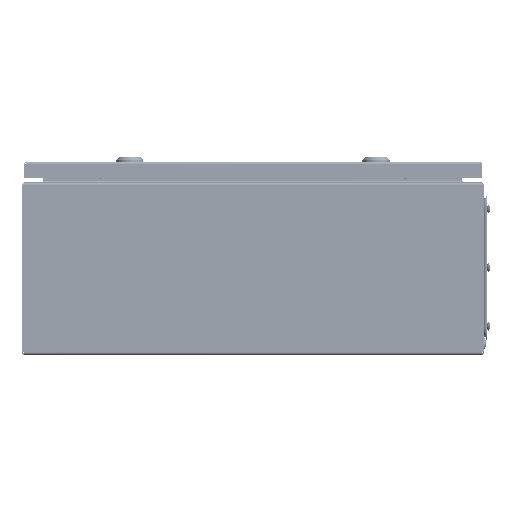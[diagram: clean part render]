
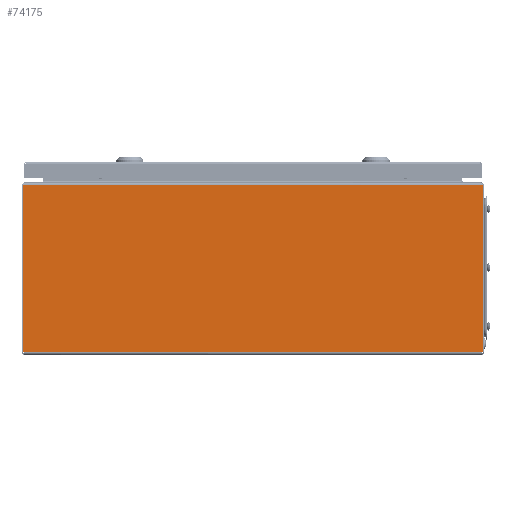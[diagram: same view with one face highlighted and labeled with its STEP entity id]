
A CAD part, left-side view. The second image highlights one B-rep face of the part: STEP entity #74175.
In plain terms, the highlighted planar face has unit normal (-1, 0, 0).
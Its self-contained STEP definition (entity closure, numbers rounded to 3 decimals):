
#7166 = VECTOR ( 'NONE', #54194, 1000. ) ;
#17624 = EDGE_CURVE ( 'NONE', #114324, #20134, #23173, .T. ) ;
#20134 = VERTEX_POINT ( 'NONE', #57565 ) ;
#22228 = CARTESIAN_POINT ( 'NONE',  ( -250., -248.529, 2.9 ) ) ;
#22267 = VERTEX_POINT ( 'NONE', #172551 ) ;
#23173 = LINE ( 'NONE', #125216, #113783 ) ;
#24949 = EDGE_CURVE ( 'NONE', #167525, #79824, #226206, .T. ) ;
#27391 = DIRECTION ( 'NONE',  ( 0., 1., 0. ) ) ;
#36995 = DIRECTION ( 'NONE',  ( 0., -1., 0. ) ) ;
#46352 = EDGE_CURVE ( 'NONE', #175825, #20134, #214727, .T. ) ;
#46869 = LINE ( 'NONE', #153279, #226556 ) ;
#47467 = DIRECTION ( 'NONE',  ( 1., 0., 0. ) ) ;
#48750 = VECTOR ( 'NONE', #154071, 1000. ) ;
#48876 = VECTOR ( 'NONE', #89266, 1000. ) ;
#54194 = DIRECTION ( 'NONE',  ( 0., 0., 1. ) ) ;
#57565 = CARTESIAN_POINT ( 'NONE',  ( -250., 248.423, 183.85 ) ) ;
#61372 = DIRECTION ( 'NONE',  ( 0., 1., 0. ) ) ;
#62414 = CARTESIAN_POINT ( 'NONE',  ( -250., -248.423, 2.9 ) ) ;
#68216 = LINE ( 'NONE', #156361, #48750 ) ;
#71979 = CARTESIAN_POINT ( 'NONE',  ( -250., -2750., 2.9 ) ) ;
#72055 = LINE ( 'NONE', #140839, #48876 ) ;
#74175 = ADVANCED_FACE ( 'NONE', ( #152777 ), #101251, .F. ) ;
#78358 = ORIENTED_EDGE ( 'NONE', *, *, #46352, .T. ) ;
#79824 = VERTEX_POINT ( 'NONE', #22228 ) ;
#83951 = CARTESIAN_POINT ( 'NONE',  ( -250., 248.529, 2.9 ) ) ;
#84875 = ORIENTED_EDGE ( 'NONE', *, *, #143660, .F. ) ;
#87023 = ORIENTED_EDGE ( 'NONE', *, *, #24949, .T. ) ;
#89266 = DIRECTION ( 'NONE',  ( 0., 1., 0. ) ) ;
#101251 = PLANE ( 'NONE',  #164540 ) ;
#102700 = DIRECTION ( 'NONE',  ( 0., -1., 0. ) ) ;
#108176 = CARTESIAN_POINT ( 'NONE',  ( -250., -248.529, 183.85 ) ) ;
#111848 = VERTEX_POINT ( 'NONE', #108176 ) ;
#113783 = VECTOR ( 'NONE', #36995, 1000. ) ;
#114324 = VERTEX_POINT ( 'NONE', #167487 ) ;
#115576 = CARTESIAN_POINT ( 'NONE',  ( -250., -248.423, 183.85 ) ) ;
#116317 = VERTEX_POINT ( 'NONE', #83951 ) ;
#117342 = CARTESIAN_POINT ( 'NONE',  ( -250., -2750., 183.85 ) ) ;
#117410 = VECTOR ( 'NONE', #61372, 1000. ) ;
#117714 = VECTOR ( 'NONE', #180668, 1000. ) ;
#120734 = DIRECTION ( 'NONE',  ( 0., 0., -1. ) ) ;
#125216 = CARTESIAN_POINT ( 'NONE',  ( -250., 248.529, 183.85 ) ) ;
#136421 = ORIENTED_EDGE ( 'NONE', *, *, #17624, .F. ) ;
#140839 = CARTESIAN_POINT ( 'NONE',  ( -250., 248.423, 2.9 ) ) ;
#143660 = EDGE_CURVE ( 'NONE', #116317, #114324, #68216, .T. ) ;
#143931 = CARTESIAN_POINT ( 'NONE',  ( -250., -2750., 183.85 ) ) ;
#150879 = EDGE_CURVE ( 'NONE', #167525, #22267, #160101, .T. ) ;
#152777 = FACE_OUTER_BOUND ( 'NONE', #224818, .T. ) ;
#153279 = CARTESIAN_POINT ( 'NONE',  ( -250., -248.529, 183.85 ) ) ;
#154071 = DIRECTION ( 'NONE',  ( 0., 0., 1. ) ) ;
#154195 = CARTESIAN_POINT ( 'NONE',  ( -250., -248.423, 2.9 ) ) ;
#154511 = ORIENTED_EDGE ( 'NONE', *, *, #199333, .F. ) ;
#156361 = CARTESIAN_POINT ( 'NONE',  ( -250., 248.529, 2.9 ) ) ;
#160101 = LINE ( 'NONE', #71979, #117714 ) ;
#164540 = AXIS2_PLACEMENT_3D ( 'NONE', #117342, #47467, #120734 ) ;
#167487 = CARTESIAN_POINT ( 'NONE',  ( -250., 248.529, 183.85 ) ) ;
#167525 = VERTEX_POINT ( 'NONE', #62414 ) ;
#172551 = CARTESIAN_POINT ( 'NONE',  ( -250., 248.423, 2.9 ) ) ;
#175825 = VERTEX_POINT ( 'NONE', #115576 ) ;
#178842 = CARTESIAN_POINT ( 'NONE',  ( -250., -248.529, 2.9 ) ) ;
#180668 = DIRECTION ( 'NONE',  ( 0., 1., 0. ) ) ;
#189696 = EDGE_CURVE ( 'NONE', #79824, #111848, #194833, .T. ) ;
#192990 = ORIENTED_EDGE ( 'NONE', *, *, #222202, .T. ) ;
#193085 = ORIENTED_EDGE ( 'NONE', *, *, #150879, .F. ) ;
#194833 = LINE ( 'NONE', #178842, #7166 ) ;
#195831 = ORIENTED_EDGE ( 'NONE', *, *, #189696, .T. ) ;
#199333 = EDGE_CURVE ( 'NONE', #22267, #116317, #72055, .T. ) ;
#214727 = LINE ( 'NONE', #143931, #117410 ) ;
#222202 = EDGE_CURVE ( 'NONE', #111848, #175825, #46869, .T. ) ;
#224818 = EDGE_LOOP ( 'NONE', ( #78358, #136421, #84875, #154511, #193085, #87023, #195831, #192990 ) ) ;
#226206 = LINE ( 'NONE', #154195, #226477 ) ;
#226477 = VECTOR ( 'NONE', #102700, 1000. ) ;
#226556 = VECTOR ( 'NONE', #27391, 1000. ) ;
